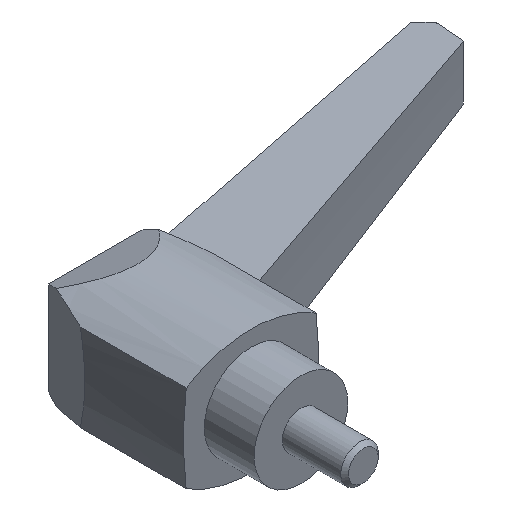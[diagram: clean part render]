
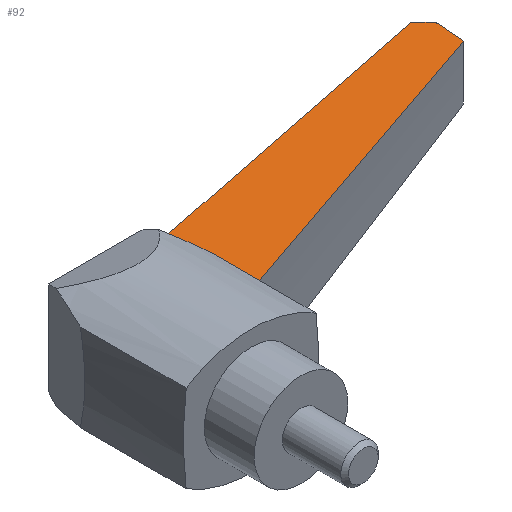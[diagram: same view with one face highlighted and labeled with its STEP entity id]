
A CAD part, isometric view. The second image highlights one B-rep face of the part: STEP entity #92.
In plain terms, the highlighted planar face has unit normal (0.035, 0, 0.999).
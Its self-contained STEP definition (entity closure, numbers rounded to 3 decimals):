
#92 = ADVANCED_FACE( '', ( #140 ), #141, .T. );
#140 = FACE_OUTER_BOUND( '', #196, .T. );
#141 = PLANE( '', #197 );
#196 = EDGE_LOOP( '', ( #332, #333, #334, #335, #336, #337 ) );
#197 = AXIS2_PLACEMENT_3D( '', #338, #339, #340 );
#332 = ORIENTED_EDGE( '', *, *, #421, .T. );
#333 = ORIENTED_EDGE( '', *, *, #408, .T. );
#334 = ORIENTED_EDGE( '', *, *, #429, .F. );
#335 = ORIENTED_EDGE( '', *, *, #387, .T. );
#336 = ORIENTED_EDGE( '', *, *, #424, .T. );
#337 = ORIENTED_EDGE( '', *, *, #427, .T. );
#338 = CARTESIAN_POINT( '', ( 0.115, 0., 6.561 ) );
#339 = DIRECTION( '', ( 0.035, 0., 0.999 ) );
#340 = DIRECTION( '', ( 0.999, 0., -0.035 ) );
#387 = EDGE_CURVE( '', #435, #439, #441, .T. );
#408 = EDGE_CURVE( '', #469, #479, #481, .T. );
#421 = EDGE_CURVE( '', #502, #469, #503, .T. );
#424 = EDGE_CURVE( '', #439, #506, #508, .T. );
#427 = EDGE_CURVE( '', #506, #502, #511, .T. );
#429 = EDGE_CURVE( '', #435, #479, #513, .F. );
#435 = VERTEX_POINT( '', #521 );
#439 = VERTEX_POINT( '', #529 );
#441 = LINE( '', #531, #532 );
#469 = VERTEX_POINT( '', #566 );
#479 = VERTEX_POINT( '', #581 );
#481 = LINE( '', #583, #584 );
#502 = VERTEX_POINT( '', #609 );
#503 = LINE( '', #610, #611 );
#506 = VERTEX_POINT( '', #614 );
#508 = LINE( '', #616, #617 );
#511 = LINE( '', #622, #623 );
#513 = LINE( '', #626, #627 );
#521 = CARTESIAN_POINT( '', ( 10.51, 17.6, 6.198 ) );
#529 = CARTESIAN_POINT( '', ( 62.66, 36.593, 4.377 ) );
#531 = CARTESIAN_POINT( '', ( 1.114, 14.178, 6.526 ) );
#532 = VECTOR( '', #640, 1000. );
#566 = CARTESIAN_POINT( '', ( 8.178, 31.131, 6.28 ) );
#581 = CARTESIAN_POINT( '', ( 10.51, 24.722, 6.198 ) );
#583 = CARTESIAN_POINT( '', ( 6.701, 35.187, 6.331 ) );
#584 = VECTOR( '', #682, 1000. );
#609 = CARTESIAN_POINT( '', ( 61.077, 43.351, 4.432 ) );
#610 = CARTESIAN_POINT( '', ( 61.077, 43.351, 4.432 ) );
#611 = VECTOR( '', #711, 1000. );
#614 = CARTESIAN_POINT( '', ( 63.076, 41.351, 4.362 ) );
#616 = CARTESIAN_POINT( '', ( 62.66, 36.593, 4.377 ) );
#617 = VECTOR( '', #718, 1000. );
#622 = CARTESIAN_POINT( '', ( 63.076, 41.351, 4.362 ) );
#623 = VECTOR( '', #721, 1000. );
#626 = CARTESIAN_POINT( '', ( 10.51, 33., 6.198 ) );
#627 = VECTOR( '', #723, 1000. );
#640 = DIRECTION( '', ( 0.939, 0.342, -0.033 ) );
#682 = DIRECTION( '', ( 0.342, -0.94, -0.012 ) );
#711 = DIRECTION( '', ( -0.974, -0.225, 0.034 ) );
#718 = DIRECTION( '', ( 0.087, 0.996, -0.003 ) );
#721 = DIRECTION( '', ( -0.707, 0.707, 0.025 ) );
#723 = DIRECTION( '', ( 0., -1., 0. ) );
